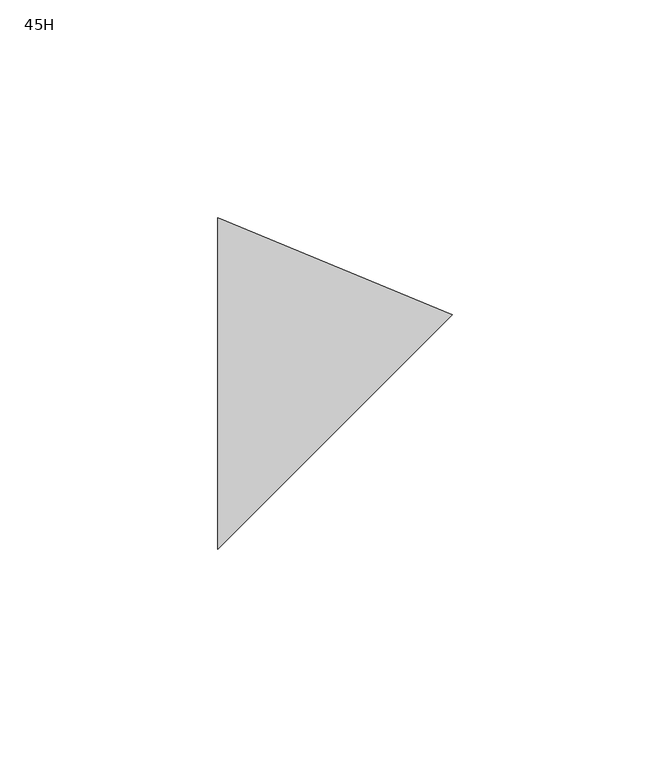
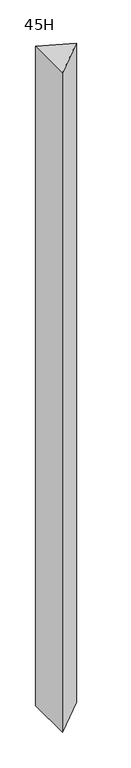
"""IFC4 building model written with IfcOpenShell, lengths in millimetres: furniture geometry, Steelcase - Montage - Junction - V - Same-Height : 45H."""

from ifc_helpers import new_model, si_unit, frame, origin, place, context, project, spatial, polyline, outline, extrude, source, transform, mapped, element, save


def furniture_45h_894241af(model_context):
    return source(origin(), model_context, "Body", "SweptSolid", [
        extrude(outline(polyline([(457.2, -38.1000015), (457.2, 38.1000015), (511.0815367, 15.7815352), (457.2, -38.1000015)])), frame((0.0, 0.0, 3.9624), z_axis=(0.0, 0.0, 1.0), x_axis=(1.0, 0.0, 0.0)), (0.0, 0.0, 1.0), 1132.6876),
    ])


if __name__ == "__main__":
    model = new_model("IFC4")
    model_context = context("Model", 3, world=origin())
    ifc_project = project(units=[si_unit("LENGTHUNIT", "METRE", prefix="MILLI")], contexts=[model_context])
    site = spatial("IfcSite", under=ifc_project)
    building = spatial("IfcBuilding", under=site)
    placement = place(None, origin())
    furniture_45h_shape = furniture_45h_894241af(model_context)
    element("IfcFurniture", 1, ObjectType="Steelcase - Montage - Junction - V - Same-Height : 45H", at=placement, inside=building, context=model_context, shape_type="MappedRepresentation", body=[
        mapped(furniture_45h_shape, transform((0.0, 0.0, 0.0), x_axis=(1.0, 0.0, 0.0), y_axis=(0.0, 1.0, 0.0), z_axis=(0.0, 0.0, 1.0))),
    ])
    save(model, "model.ifc")
